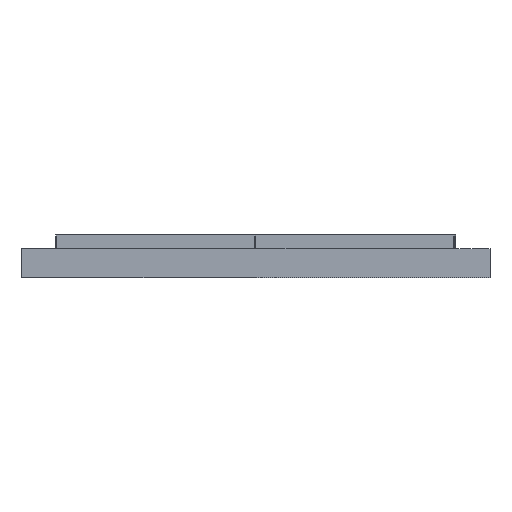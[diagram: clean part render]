
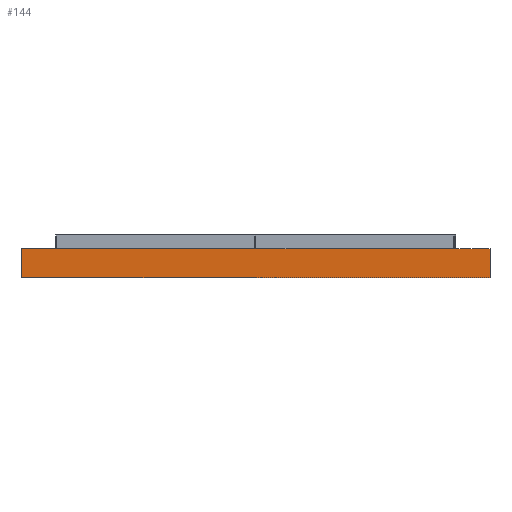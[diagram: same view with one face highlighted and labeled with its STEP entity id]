
A CAD part, front view. The second image highlights one B-rep face of the part: STEP entity #144.
In plain terms, the highlighted planar face has unit normal (-0.035, -0.999, 0).
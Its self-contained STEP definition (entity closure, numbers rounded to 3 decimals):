
#144 = ADVANCED_FACE ( 'NONE', ( #16338 ), #12374, .T. ) ;
#3084 = VECTOR ( 'NONE', #11285, 1000. ) ;
#6545 = DIRECTION ( 'NONE',  ( -0.999, 0.035, 0. ) ) ;
#6956 = LINE ( 'NONE', #25247, #16591 ) ;
#8542 = DIRECTION ( 'NONE',  ( -0.035, -0.999, 0. ) ) ;
#9559 = CARTESIAN_POINT ( 'NONE',  ( -64.5, 458.277, 0. ) ) ;
#10179 = AXIS2_PLACEMENT_3D ( 'NONE', #14284, #8542, #25188 ) ;
#10469 = ORIENTED_EDGE ( 'NONE', *, *, #23650, .T. ) ;
#11285 = DIRECTION ( 'NONE',  ( 0., 0., -1. ) ) ;
#11850 = VERTEX_POINT ( 'NONE', #15152 ) ;
#12215 = DIRECTION ( 'NONE',  ( -0.999, 0.035, 0. ) ) ;
#12374 = PLANE ( 'NONE',  #10179 ) ;
#13163 = VECTOR ( 'NONE', #15495, 1000. ) ;
#13485 = LINE ( 'NONE', #21526, #3084 ) ;
#14112 = EDGE_CURVE ( 'NONE', #11850, #25137, #6956, .T. ) ;
#14284 = CARTESIAN_POINT ( 'NONE',  ( 65., 453.755, 8. ) ) ;
#15152 = CARTESIAN_POINT ( 'NONE',  ( 64.5, 453.773, 0. ) ) ;
#15357 = CARTESIAN_POINT ( 'NONE',  ( 64.5, 453.773, 8. ) ) ;
#15495 = DIRECTION ( 'NONE',  ( 0., 0., 1. ) ) ;
#15796 = EDGE_CURVE ( 'NONE', #16947, #25137, #13485, .T. ) ;
#16338 = FACE_OUTER_BOUND ( 'NONE', #26346, .T. ) ;
#16591 = VECTOR ( 'NONE', #6545, 1000. ) ;
#16947 = VERTEX_POINT ( 'NONE', #22210 ) ;
#17305 = EDGE_CURVE ( 'NONE', #11850, #21232, #21356, .T. ) ;
#20278 = CARTESIAN_POINT ( 'NONE',  ( 65., 453.755, 8. ) ) ;
#20534 = LINE ( 'NONE', #20278, #24531 ) ;
#21098 = CARTESIAN_POINT ( 'NONE',  ( 64.5, 453.773, 8. ) ) ;
#21232 = VERTEX_POINT ( 'NONE', #21098 ) ;
#21356 = LINE ( 'NONE', #15357, #13163 ) ;
#21526 = CARTESIAN_POINT ( 'NONE',  ( -64.5, 458.277, 8. ) ) ;
#21984 = ORIENTED_EDGE ( 'NONE', *, *, #14112, .F. ) ;
#22210 = CARTESIAN_POINT ( 'NONE',  ( -64.5, 458.277, 8. ) ) ;
#23278 = ORIENTED_EDGE ( 'NONE', *, *, #17305, .T. ) ;
#23650 = EDGE_CURVE ( 'NONE', #21232, #16947, #20534, .T. ) ;
#24531 = VECTOR ( 'NONE', #12215, 1000. ) ;
#24860 = ORIENTED_EDGE ( 'NONE', *, *, #15796, .T. ) ;
#25137 = VERTEX_POINT ( 'NONE', #9559 ) ;
#25188 = DIRECTION ( 'NONE',  ( -0.999, 0.035, 0. ) ) ;
#25247 = CARTESIAN_POINT ( 'NONE',  ( 64.5, 453.773, 0. ) ) ;
#26346 = EDGE_LOOP ( 'NONE', ( #23278, #10469, #24860, #21984 ) ) ;
